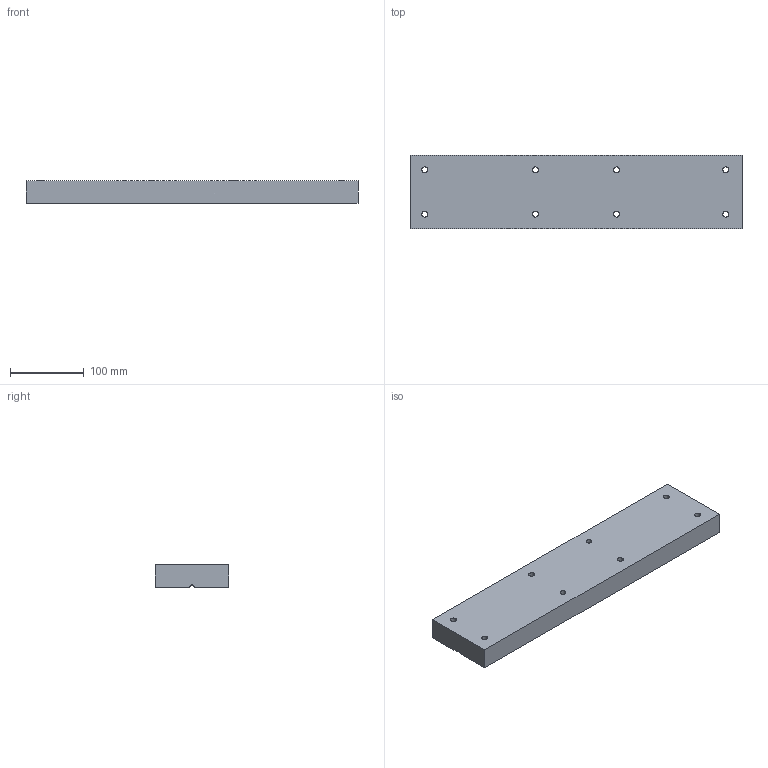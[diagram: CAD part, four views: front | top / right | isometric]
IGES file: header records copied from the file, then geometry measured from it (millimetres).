
Start section: SolidWorks IGES FILE using analytic representation for surfaces
Global section: file name: D:\1M\bulbmoldala.IGS; native system: SolidWorks 2000 by SolidWorks Corporation; preprocessor: Version 5.2; author: Rami Wessman; date: 030107.223142; units: millimetre
Bounding box: 450 x 100 x 30 mm (x, y, z)
Surface area: 134227.4 mm2 (no closed solid volume)
Topology: 0 solids, 0 shells, 30 faces, 776 edges, 776 vertices
Faces by surface type: revolution 21, bspline 9
